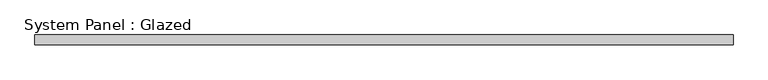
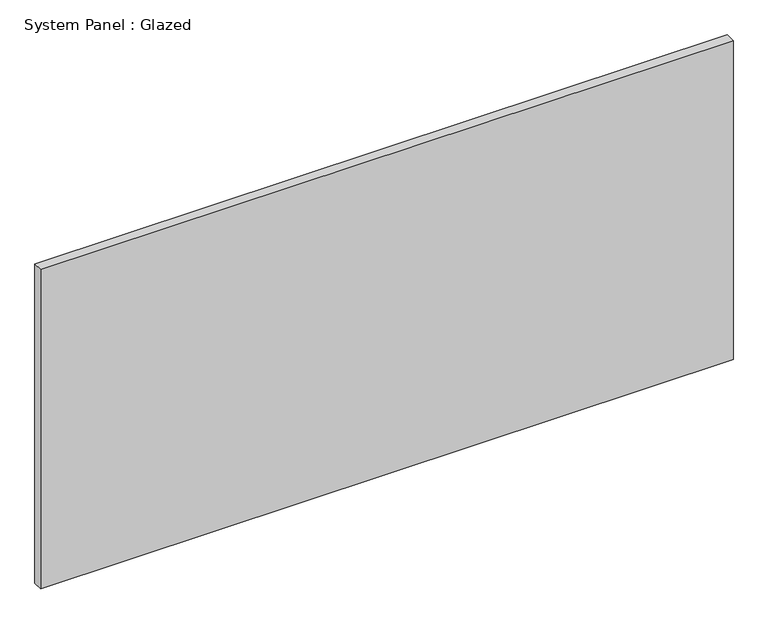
"""IFC4 building model written with IfcOpenShell, lengths in millimetres: plate geometry, System Panel : Glazed."""

from ifc_helpers import new_model, si_unit, origin, origin_with_axes, place, context, project, spatial, polyline, outline, extrude, source, transform, mapped, element, save


def system_panel_glazed_4116d66b(model_context):
    return source(origin(), model_context, "Body", "SweptSolid", [
        extrude(outline(polyline([(891.9986512, 19.05), (-891.9986512, 19.05), (-891.9986512, 44.45), (891.9986512, 44.45), (891.9986512, 19.05)])), origin_with_axes(), (0.0, 0.0, 1.0), 869.5973025),
    ])


if __name__ == "__main__":
    model = new_model("IFC4")
    model_context = context("Model", 3, world=origin())
    ifc_project = project(units=[si_unit("LENGTHUNIT", "METRE", prefix="MILLI")], contexts=[model_context])
    site = spatial("IfcSite", under=ifc_project)
    building = spatial("IfcBuilding", under=site)
    placement = place(None, origin())
    system_panel_glazed_shape = system_panel_glazed_4116d66b(model_context)
    element("IfcPlate", 1, ObjectType="System Panel : Glazed", at=placement, inside=building, context=model_context, shape_type="MappedRepresentation", body=[
        mapped(system_panel_glazed_shape, transform((0.0, 0.0, 0.0), x_axis=(1.0, 0.0, 0.0), y_axis=(0.0, 1.0, 0.0), z_axis=(0.0, 0.0, 1.0))),
    ])
    save(model, "model.ifc")
